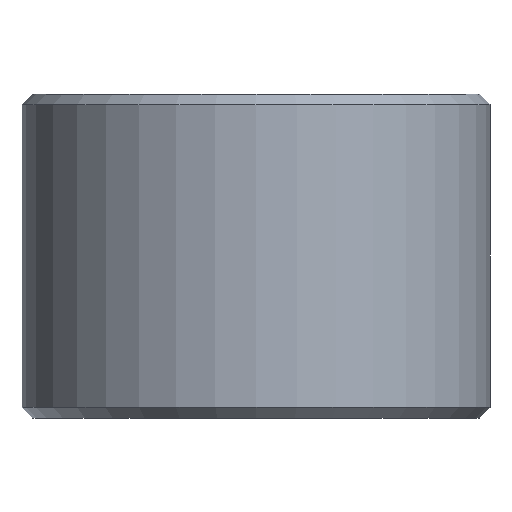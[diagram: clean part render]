
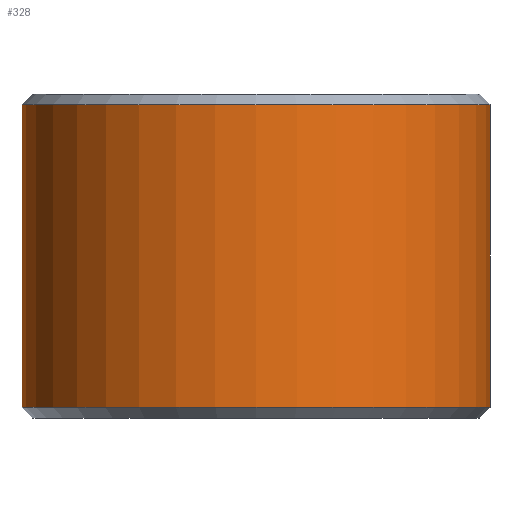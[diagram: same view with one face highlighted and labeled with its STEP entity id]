
A CAD part, front view. The second image highlights one B-rep face of the part: STEP entity #328.
In plain terms, the highlighted cylindrical face has radius 13 mm (diameter 26 mm), a partial arc.
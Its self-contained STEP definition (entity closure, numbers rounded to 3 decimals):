
#4 = FACE_OUTER_BOUND ( 'NONE', #320, .T. ) ;
#10 = EDGE_CURVE ( 'NONE', #50, #259, #127, .T. ) ;
#15 = EDGE_CURVE ( 'NONE', #259, #240, #260, .T. ) ;
#32 = ORIENTED_EDGE ( 'NONE', *, *, #15, .T. ) ;
#50 = VERTEX_POINT ( 'NONE', #368 ) ;
#62 = CARTESIAN_POINT ( 'NONE',  ( -13., 0., 8.4 ) ) ;
#82 = ORIENTED_EDGE ( 'NONE', *, *, #262, .F. ) ;
#85 = ORIENTED_EDGE ( 'NONE', *, *, #10, .T. ) ;
#105 = AXIS2_PLACEMENT_3D ( 'NONE', #416, #242, #109 ) ;
#109 = DIRECTION ( 'NONE',  ( -1., 0., 0. ) ) ;
#118 = EDGE_CURVE ( 'NONE', #240, #168, #181, .T. ) ;
#119 = CARTESIAN_POINT ( 'NONE',  ( 0., 0., 8.4 ) ) ;
#127 = CIRCLE ( 'NONE', #272, 13. ) ;
#134 = VECTOR ( 'NONE', #429, 1000. ) ;
#158 = DIRECTION ( 'NONE',  ( 0., 0., 1. ) ) ;
#168 = VERTEX_POINT ( 'NONE', #315 ) ;
#181 = CIRCLE ( 'NONE', #226, 13. ) ;
#207 = CYLINDRICAL_SURFACE ( 'NONE', #105, 13. ) ;
#224 = DIRECTION ( 'NONE',  ( 1., 0., 0. ) ) ;
#226 = AXIS2_PLACEMENT_3D ( 'NONE', #406, #158, #438 ) ;
#232 = DIRECTION ( 'NONE',  ( 0., 0., -1. ) ) ;
#240 = VERTEX_POINT ( 'NONE', #305 ) ;
#242 = DIRECTION ( 'NONE',  ( 0., 0., -1. ) ) ;
#256 = DIRECTION ( 'NONE',  ( 0., 0., -1. ) ) ;
#259 = VERTEX_POINT ( 'NONE', #62 ) ;
#260 = LINE ( 'NONE', #365, #134 ) ;
#262 = EDGE_CURVE ( 'NONE', #50, #168, #439, .T. ) ;
#272 = AXIS2_PLACEMENT_3D ( 'NONE', #119, #256, #224 ) ;
#276 = ORIENTED_EDGE ( 'NONE', *, *, #118, .T. ) ;
#300 = VECTOR ( 'NONE', #232, 1000. ) ;
#305 = CARTESIAN_POINT ( 'NONE',  ( -13., 0., -8.4 ) ) ;
#315 = CARTESIAN_POINT ( 'NONE',  ( 13., 0., -8.4 ) ) ;
#320 = EDGE_LOOP ( 'NONE', ( #82, #85, #32, #276 ) ) ;
#328 = ADVANCED_FACE ( 'NONE', ( #4 ), #207, .T. ) ;
#365 = CARTESIAN_POINT ( 'NONE',  ( -13., 0., 9. ) ) ;
#368 = CARTESIAN_POINT ( 'NONE',  ( 13., 0., 8.4 ) ) ;
#371 = CARTESIAN_POINT ( 'NONE',  ( 13., 0., 9. ) ) ;
#406 = CARTESIAN_POINT ( 'NONE',  ( 0., 0., -8.4 ) ) ;
#416 = CARTESIAN_POINT ( 'NONE',  ( 0., 0., 9. ) ) ;
#429 = DIRECTION ( 'NONE',  ( 0., 0., -1. ) ) ;
#438 = DIRECTION ( 'NONE',  ( 1., 0., 0. ) ) ;
#439 = LINE ( 'NONE', #371, #300 ) ;
